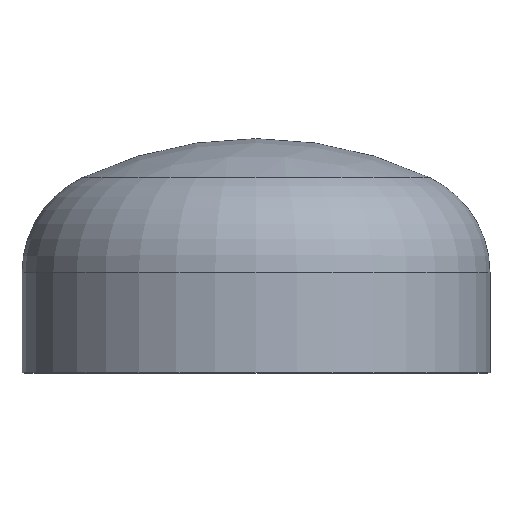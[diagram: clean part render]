
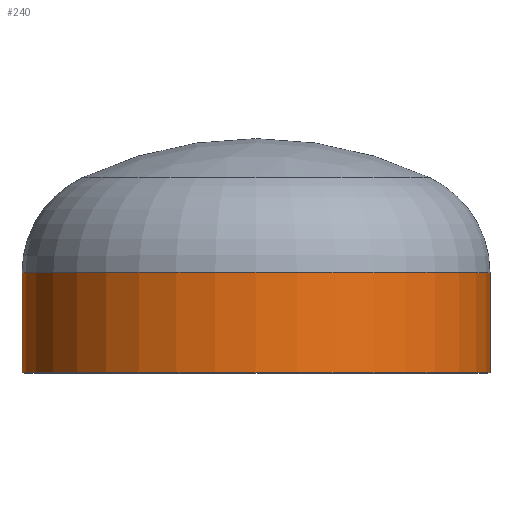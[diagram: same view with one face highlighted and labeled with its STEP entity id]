
A CAD part, top view. The second image highlights one B-rep face of the part: STEP entity #240.
In plain terms, the highlighted cylindrical face has radius 350 mm (diameter 700 mm), a partial arc.
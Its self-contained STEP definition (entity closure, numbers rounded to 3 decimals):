
#3 = EDGE_LOOP ( 'NONE', ( #78, #29, #21, #111 ) ) ;
#5 = VERTEX_POINT ( 'NONE', #272 ) ;
#21 = ORIENTED_EDGE ( 'NONE', *, *, #397, .F. ) ;
#23 = AXIS2_PLACEMENT_3D ( 'NONE', #372, #232, #327 ) ;
#27 = CARTESIAN_POINT ( 'NONE',  ( 0., 0., 0. ) ) ;
#29 = ORIENTED_EDGE ( 'NONE', *, *, #178, .T. ) ;
#34 = LINE ( 'NONE', #225, #182 ) ;
#39 = VERTEX_POINT ( 'NONE', #167 ) ;
#52 = VERTEX_POINT ( 'NONE', #245 ) ;
#78 = ORIENTED_EDGE ( 'NONE', *, *, #290, .T. ) ;
#94 = VERTEX_POINT ( 'NONE', #348 ) ;
#110 = AXIS2_PLACEMENT_3D ( 'NONE', #27, #268, #237 ) ;
#111 = ORIENTED_EDGE ( 'NONE', *, *, #219, .F. ) ;
#115 = AXIS2_PLACEMENT_3D ( 'NONE', #180, #122, #124 ) ;
#122 = DIRECTION ( 'NONE',  ( 0., -1., 0. ) ) ;
#124 = DIRECTION ( 'NONE',  ( 1., 0., 0. ) ) ;
#134 = CYLINDRICAL_SURFACE ( 'NONE', #110, 350. ) ;
#145 = VECTOR ( 'NONE', #253, 1000. ) ;
#167 = CARTESIAN_POINT ( 'NONE',  ( -350., 0., 0. ) ) ;
#178 = EDGE_CURVE ( 'NONE', #94, #39, #34, .T. ) ;
#180 = CARTESIAN_POINT ( 'NONE',  ( 0., 150., 0. ) ) ;
#182 = VECTOR ( 'NONE', #341, 1000. ) ;
#218 = CIRCLE ( 'NONE', #115, 350. ) ;
#219 = EDGE_CURVE ( 'NONE', #5, #52, #224, .T. ) ;
#224 = LINE ( 'NONE', #267, #145 ) ;
#225 = CARTESIAN_POINT ( 'NONE',  ( -350., 0., 0. ) ) ;
#232 = DIRECTION ( 'NONE',  ( 0., -1., 0. ) ) ;
#237 = DIRECTION ( 'NONE',  ( 1., 0., 0. ) ) ;
#240 = ADVANCED_FACE ( 'NONE', ( #286 ), #134, .T. ) ;
#245 = CARTESIAN_POINT ( 'NONE',  ( 350., 0., 0. ) ) ;
#251 = CIRCLE ( 'NONE', #23, 350. ) ;
#253 = DIRECTION ( 'NONE',  ( 0., -1., 0. ) ) ;
#267 = CARTESIAN_POINT ( 'NONE',  ( 350., 0., 0. ) ) ;
#268 = DIRECTION ( 'NONE',  ( 0., -1., 0. ) ) ;
#272 = CARTESIAN_POINT ( 'NONE',  ( 350., 150., 0. ) ) ;
#286 = FACE_OUTER_BOUND ( 'NONE', #3, .T. ) ;
#290 = EDGE_CURVE ( 'NONE', #5, #94, #218, .T. ) ;
#327 = DIRECTION ( 'NONE',  ( 1., 0., 0. ) ) ;
#341 = DIRECTION ( 'NONE',  ( 0., -1., 0. ) ) ;
#348 = CARTESIAN_POINT ( 'NONE',  ( -350., 150., 0. ) ) ;
#372 = CARTESIAN_POINT ( 'NONE',  ( 0., 0., 0. ) ) ;
#397 = EDGE_CURVE ( 'NONE', #52, #39, #251, .T. ) ;
